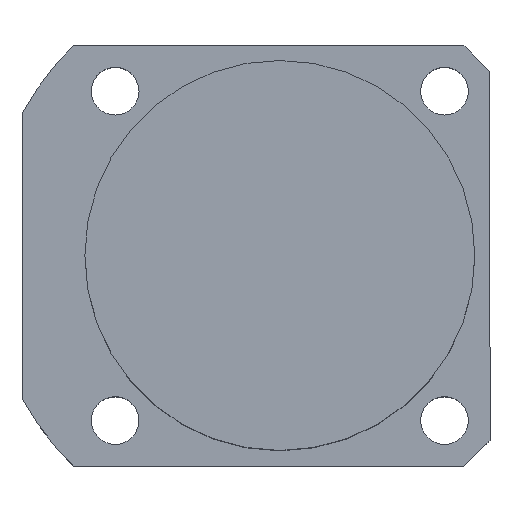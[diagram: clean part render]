
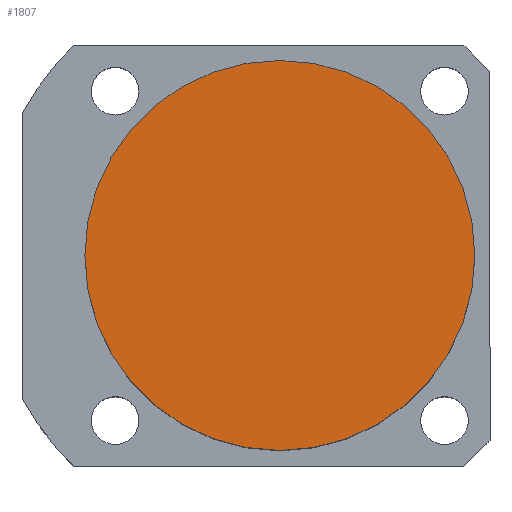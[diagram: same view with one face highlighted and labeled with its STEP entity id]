
A CAD part, top view. The second image highlights one B-rep face of the part: STEP entity #1807.
In plain terms, the highlighted planar face has unit normal (0, 0, 1).
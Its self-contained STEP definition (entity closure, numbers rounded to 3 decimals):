
#204 = DIRECTION ( 'NONE',  ( 0., 0., 1. ) ) ;
#410 = EDGE_CURVE ( 'NONE', #4590, #3349, #968, .T. ) ;
#445 = AXIS2_PLACEMENT_3D ( 'NONE', #3492, #204, #4035 ) ;
#558 = AXIS2_PLACEMENT_3D ( 'NONE', #3590, #4132, #849 ) ;
#822 = PLANE ( 'NONE',  #558 ) ;
#849 = DIRECTION ( 'NONE',  ( 1., 0., 0. ) ) ;
#968 = CIRCLE ( 'NONE', #445, 45. ) ;
#1189 = FACE_OUTER_BOUND ( 'NONE', #5720, .T. ) ;
#1215 = DIRECTION ( 'NONE',  ( 0., 0., 1. ) ) ;
#1807 = ADVANCED_FACE ( 'NONE', ( #1189 ), #822, .T. ) ;
#2552 = CARTESIAN_POINT ( 'NONE',  ( -45., 0., 69.5 ) ) ;
#2784 = ORIENTED_EDGE ( 'NONE', *, *, #410, .T. ) ;
#3349 = VERTEX_POINT ( 'NONE', #2552 ) ;
#3492 = CARTESIAN_POINT ( 'NONE',  ( 0., 0., 69.5 ) ) ;
#3590 = CARTESIAN_POINT ( 'NONE',  ( 0., 0., 69.5 ) ) ;
#4035 = DIRECTION ( 'NONE',  ( 1., 0., 0. ) ) ;
#4132 = DIRECTION ( 'NONE',  ( 0., 0., 1. ) ) ;
#4471 = ORIENTED_EDGE ( 'NONE', *, *, #4995, .T. ) ;
#4508 = CARTESIAN_POINT ( 'NONE',  ( 0., 0., 69.5 ) ) ;
#4590 = VERTEX_POINT ( 'NONE', #5915 ) ;
#4995 = EDGE_CURVE ( 'NONE', #3349, #4590, #5503, .T. ) ;
#5060 = DIRECTION ( 'NONE',  ( 1., 0., 0. ) ) ;
#5503 = CIRCLE ( 'NONE', #7079, 45. ) ;
#5720 = EDGE_LOOP ( 'NONE', ( #4471, #2784 ) ) ;
#5915 = CARTESIAN_POINT ( 'NONE',  ( 45., 0., 69.5 ) ) ;
#7079 = AXIS2_PLACEMENT_3D ( 'NONE', #4508, #1215, #5060 ) ;
